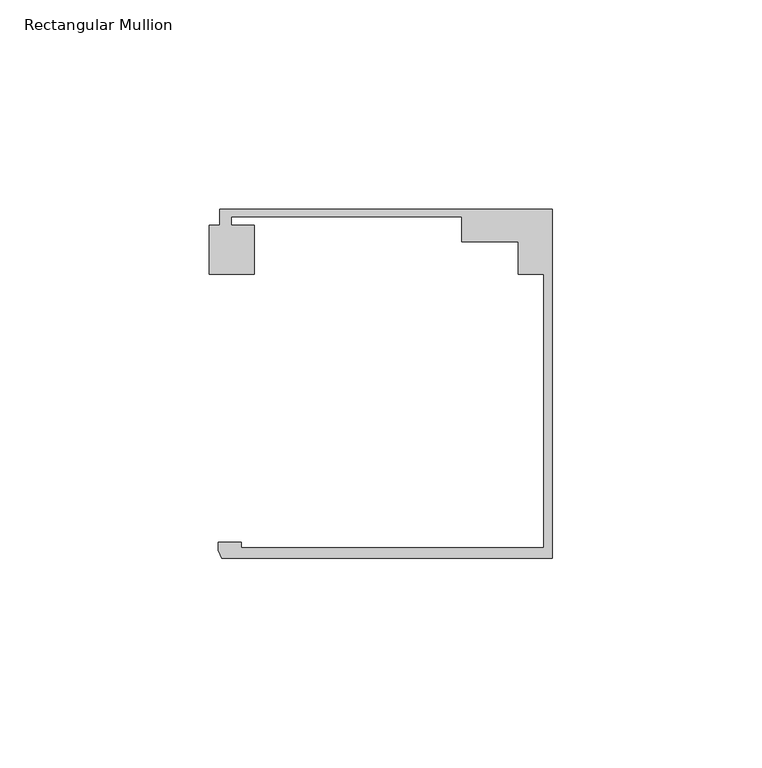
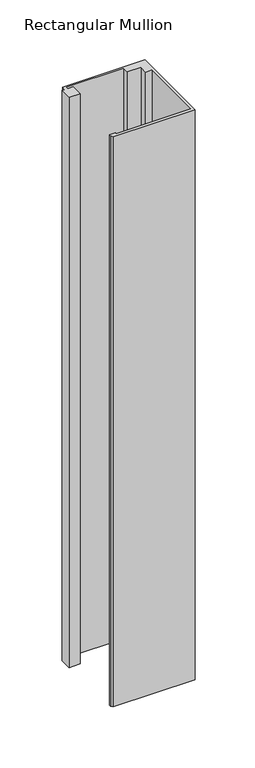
"""IFC4 building model written with IfcOpenShell, lengths in millimetres: member geometry, Rectangular Mullion : Danpal_Airpt_End-Mullion_B2."""

from ifc_helpers import new_model, si_unit, frame, origin, place, context, project, spatial, polyline, outline, extrude, source, transform, mapped, element, save


def rectangular_mullion_66a7f719(model_context):
    return source(origin(), model_context, "Body", "SweptSolid", [
        extrude(outline(polyline([(39.9953159, -74.9940824), (39.9953159, -9.7188964), (33.895316, -9.7188964), (33.895316, -1.8818054), (20.4474994, -1.8818054), (20.4474994, 4.0051512), (-34.6525006, 4.0051512), (-34.6525006, 2.0051513), (-29.1480372, 2.0051513), (-29.1480372, -9.6875514), (-39.8639164, -9.6875514), (-39.8639164, 2.0051513), (-37.3521714, 2.0051513), (-37.3521714, 5.8051514), (41.995316, 5.8051514), (41.995316, -77.4940825), (-36.8561849, -77.4940825), (-37.7831446, -75.5472671), (-37.7831446, -73.6940824), (-32.2521508, -73.6940824), (-32.2521508, -74.9940824), (39.9953159, -74.9940824)])), frame((0.0, 0.0, -580.058414), z_axis=(0.0, 0.0, 1.0), x_axis=(1.0, 0.0, 0.0)), (0.0, 0.0, 1.0), 580.058414),
    ])


if __name__ == "__main__":
    model = new_model("IFC4")
    model_context = context("Model", 3, world=origin())
    ifc_project = project(units=[si_unit("LENGTHUNIT", "METRE", prefix="MILLI")], contexts=[model_context])
    site = spatial("IfcSite", under=ifc_project)
    building = spatial("IfcBuilding", under=site)
    placement = place(None, origin())
    rectangular_mullion_shape = rectangular_mullion_66a7f719(model_context)
    element("IfcMember", 1, ObjectType="Rectangular Mullion : Danpal_Airpt_End-Mullion_B2", at=placement, inside=building, context=model_context, shape_type="MappedRepresentation", body=[
        mapped(rectangular_mullion_shape, transform((0.0, 0.0, 0.0), x_axis=(1.0, 0.0, 0.0), y_axis=(0.0, 1.0, 0.0), z_axis=(0.0, 0.0, 1.0))),
    ])
    save(model, "model.ifc")
